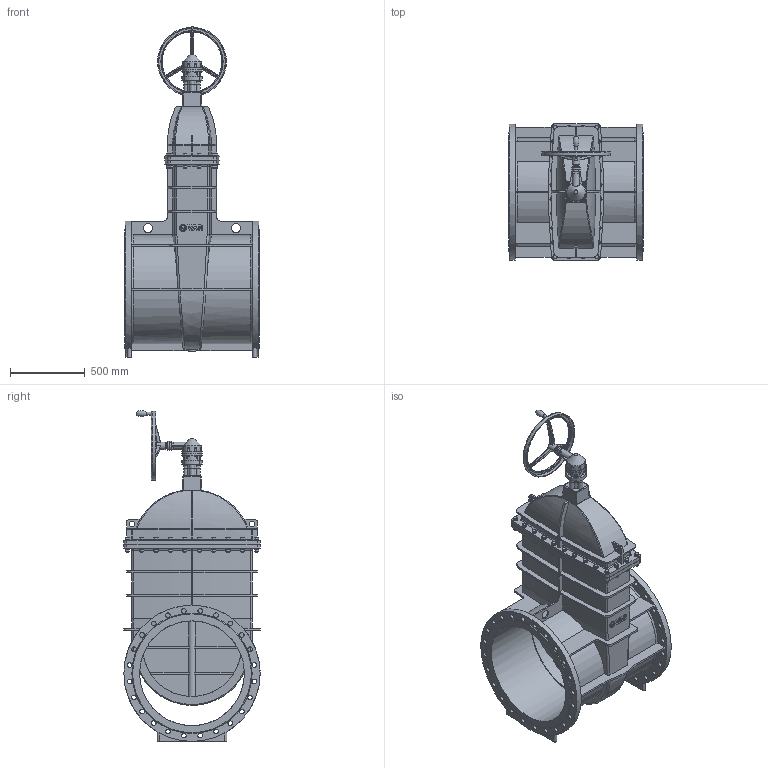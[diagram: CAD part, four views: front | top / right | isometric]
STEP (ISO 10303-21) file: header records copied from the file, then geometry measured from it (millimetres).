
FILE_DESCRIPTION(('STEP AP242'), '1');
FILE_NAME('青溻桄赅', '', ('UNSPECIFIED'), ('UNSPECIFIED'), 'C3D Converter', 'C3D Toolkit', '');
FILE_SCHEMA(('AP242_MANAGED_MODEL_BASED_3D_ENGINEERING_MIM_LF { 1 0 10303 442 1 1 4 }'));
Length unit declared in the file: millimetre
Assembly tree (171 placements, depth 2):
  (unnamed)
    (unnamed)
    (unnamed)
    (unnamed)
    (unnamed)  x2
    (unnamed)
    (unnamed)
    (unnamed)
    (unnamed)
    (unnamed)
    (unnamed)  x24
    (unnamed)  x48
    (unnamed)  x48
    (unnamed)  x24
    (unnamed)  x4
    (unnamed)  x12
    (unnamed)
Bounding box: 900 x 912.5 x 2209.82 mm (x, y, z)
Volume: 120115042.6 mm3; surface area: 14223764.4 mm2
Topology: 177 solids, 177 shells, 2944 faces, 6682 edges, 4188 vertices
Faces by surface type: plane 1589, cylinder 706, cone 364, extrusion 119, bspline 86, torus 80
Full cylindrical faces by diameter (mm): 3 x12, 4 x36, 6 x7, 7 x12, 8 x12, 12 x8, 13 x4, 13.835 x24, 16 x24, 17.5 x48, 18 x76, 20 x5, 24 x24, 26 x9, 28 x48, 31 x48, 36 x2, 40 x1, 47.045 x1, 50 x1, 52 x1, 52.333 x5, 60 x4, 109.912 x2, 135.463 x3, 400 x1, 410 x1, 450 x1, 460 x1, 660.5 x2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
Entity records: 67795 total; most frequent: CARTESIAN_POINT 30821, ORIENTED_EDGE 6052, DIRECTION 6021, EDGE_CURVE 3026, AXIS2_PLACEMENT_3D 2298, VERTEX_POINT 2122, EDGE_LOOP 1933, FACE_BOUND 1435
